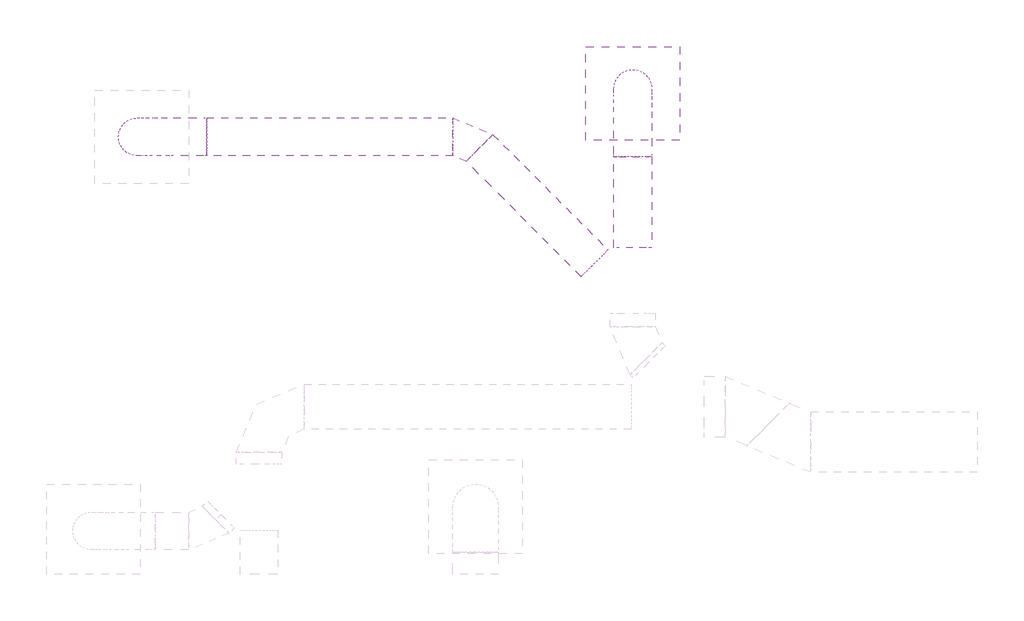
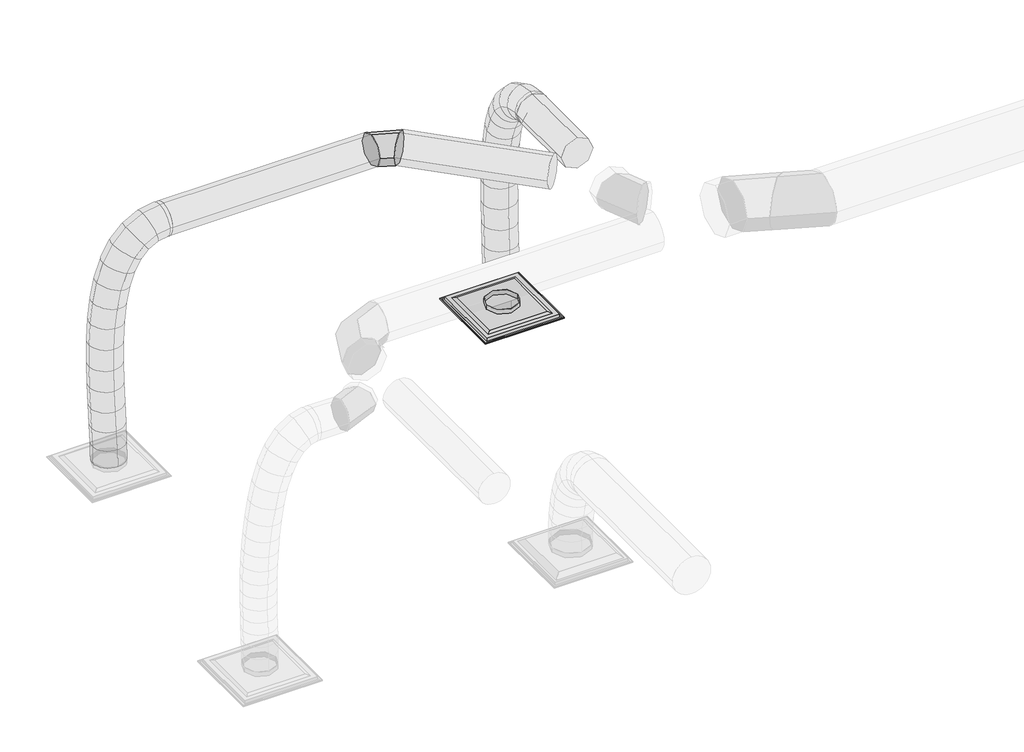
# One storey, part 32 of 33: 5 duct segments, 1 air terminal, 1 duct fitting.
"""IFC4 building model written with IfcOpenShell, lengths in millimetres."""

from ifc_helpers import new_model, si_unit, point, frame, frame_2d, origin, place, context, project, spatial, circle_curve, ellipse_curve, trimmed, segment, composite_curve, outline, extrude, transform, mapped, element, save
from ifc_brep_helpers import plane_surface, cylinder_surface, advanced_brep
from components import par_aa_10_24x24_32668ffe, round_elbow_1_d_ea3dccb8

model = new_model("IFC4")

# Units and contexts
model_context = context("Model", 3, world=origin())
ifc_project = project(units=[si_unit("LENGTHUNIT", "METRE", prefix="MILLI")], contexts=[model_context])

# Site, building, storey
site = spatial("IfcSite", under=ifc_project)
building = spatial("IfcBuilding", under=site)
storey = spatial("IfcBuildingStorey", under=building, Name="T.O. SLAB - 1ST", Elevation=-25.4)

# Air terminal
placement = place(None, origin())
par_aa_10_24x24_shape = par_aa_10_24x24_32668ffe(model_context)
element("IfcAirTerminal", 1, ObjectType="Titus-Round_Neck_Exhaust_Diffuser-PAR_Surface_Mount : PAR AA-10_24x24", at=placement, inside=storey, context=model_context, shape_type="MappedRepresentation", body=[
    mapped(par_aa_10_24x24_shape, transform((9087.7825715, 33500.1029955, 2717.8), x_axis=(1.0, 0.0, 0.0), y_axis=(0.0, -1.0, 0.0), z_axis=(0.0, 0.0, -1.0))),
])

# Duct fitting
round_elbow_1_d_shape = round_elbow_1_d_ea3dccb8(model_context)
element("IfcDuctFitting", 2, ObjectType="Round Elbow : 1 D", at=placement, inside=storey, context=model_context, shape_type="MappedRepresentation", body=[
    mapped(round_elbow_1_d_shape, transform((7983.9290577, 33207.8660138, 4648.2), x_axis=(-0.7071067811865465, 0.7071067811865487, 0.0), y_axis=(-0.7071067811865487, -0.7071067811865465, 0.0), z_axis=(0.0, 0.0, 1.0))),
])

# Duct segments
element("IfcDuctSegment", 3, ObjectType="Flex - Round", at=placement, inside=storey, context=model_context, shape_type="AdvancedBrep", body=[
    advanced_brep(
    [(8960.7825715, 33073.9418033, 4648.2), (9087.7825715, 33073.9418033, 4521.2), (9214.7825715, 33073.9418033, 4648.2), (9087.7825715, 33073.9418033, 4775.2), (8960.7825715, 33092.2978485, 4648.2), (9087.7825715, 33081.4861867, 4521.2), (9214.7825715, 33092.2978485, 4648.2), (9087.7825715, 33103.1095102, 4775.2), (8960.7825715, 33500.1029955, 2787.65), (9087.7825715, 33627.0786966, 2785.1657803), (9214.7825715, 33500.1029955, 2787.65), (9087.7825715, 33373.1272945, 2790.1342197), (8960.7825715, 33197.7108398, 4630.1211087), (9087.7825715, 33156.9552662, 4508.2566496), (9214.7825715, 33197.7108398, 4630.1211087), (9087.7825715, 33238.4664135, 4751.9855678), (8960.7825715, 33297.8818377, 4578.5263698), (9087.7825715, 33221.2813885, 4475.1244102), (9214.7825715, 33297.8818377, 4578.5263698), (9087.7825715, 33374.4822869, 4681.9283295), (8960.7825715, 33376.7647316, 4497.3786863), (9087.7825715, 33274.1352323, 4420.753091), (9214.7825715, 33376.7647316, 4497.3786863), (9087.7825715, 33479.3942308, 4574.0042815), (8960.7825715, 33436.669456, 4390.6409607), (9087.7825715, 33320.1053441, 4338.8439392), (9214.7825715, 33436.669456, 4390.6409607), (9087.7825715, 33553.2335679, 4442.4379822), (8960.7825715, 33479.9059456, 4262.2760959), (9087.7825715, 33356.9181589, 4229.5503301), (9214.7825715, 33479.9059456, 4262.2760959), (9087.7825715, 33602.8937324, 4295.0018616), (8960.7825715, 33508.7841351, 4116.2469945), (9087.7825715, 33383.0842509, 4097.2355633), (9214.7825715, 33508.7841351, 4116.2469945), (9087.7825715, 33634.4840193, 4135.2584258), (8960.7825715, 33525.6139589, 3956.5165595), (9087.7825715, 33398.8927251, 3947.1986718), (9214.7825715, 33525.6139589, 3956.5165595), (9087.7825715, 33652.3351928, 3965.8344471), (8960.7825715, 33532.7053518, 3787.0476934), (9087.7825715, 33405.7002426, 3784.5138088), (9214.7825715, 33532.7053518, 3787.0476934), (9087.7825715, 33659.710461, 3789.5815781), (8960.7825715, 33532.3682482, 3611.8032991), (9087.7825715, 33405.3720111, 3613.881582), (9214.7825715, 33532.3682482, 3611.8032991), (9087.7825715, 33659.3644854, 3609.7250162), (8960.7825715, 33526.9125829, 3434.7462793), (9087.7825715, 33400.0049259, 3439.6993256), (9214.7825715, 33526.9125829, 3434.7462793), (9087.7825715, 33653.8202398, 3429.793233), (8960.7825715, 33518.6482903, 3259.8395367), (9087.7825715, 33391.8037682, 3266.1287779), (9214.7825715, 33518.6482903, 3259.8395367), (9087.7825715, 33645.4928124, 3253.5502955), (8960.7825715, 33509.8853052, 3091.0459741), (9087.7825715, 33383.0294476, 3097.1168709), (9214.7825715, 33509.8853052, 3091.0459741), (9087.7825715, 33636.7411627, 3084.9750773), (8960.7825715, 33502.9335621, 2932.3284943), (9087.7825715, 33375.9879333, 2936.3497964), (9214.7825715, 33502.9335621, 2932.3284943), (9087.7825715, 33629.8791908, 2928.3071922)],
    [
        (0, 1, circle_curve(frame((9087.7825715, 33073.9418033, 4648.2), z_axis=(0.0, -1.0, 0.0), x_axis=(-1.0, 0.0, 0.0)), 127.0)),
        (1, 2, circle_curve(frame((9087.7825715, 33073.9418033, 4648.2), z_axis=(0.0, -1.0, 0.0), x_axis=(-1.0, 0.0, 0.0)), 127.0)),
        (2, 3, circle_curve(frame((9087.7825715, 33073.9418033, 4648.2), z_axis=(0.0, -1.0, 0.0), x_axis=(-1.0, 0.0, 0.0)), 127.0)),
        (3, 0, circle_curve(frame((9087.7825715, 33073.9418033, 4648.2), z_axis=(0.0, -1.0, 0.0), x_axis=(-1.0, 0.0, 0.0)), 127.0)),
        (0, 4),
        (4, 5, ellipse_curve(frame((9087.7825715, 33092.2978485, 4648.2), z_axis=(0.0, -0.9963959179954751, 0.08482437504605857), x_axis=(0.0, -0.08482437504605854, -0.9963959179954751)), 127.459374, 127.0)),
        (5, 1),
        (5, 6, ellipse_curve(frame((9087.7825715, 33092.2978485, 4648.2), z_axis=(0.0, -0.9963959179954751, 0.08482437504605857), x_axis=(0.0, -0.08482437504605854, -0.9963959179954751)), 127.459374, 127.0)),
        (6, 2),
        (6, 7, ellipse_curve(frame((9087.7825715, 33092.2978485, 4648.2), z_axis=(0.0, -0.9963959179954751, 0.08482437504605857), x_axis=(0.0, -0.08482437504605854, -0.9963959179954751)), 127.459374, 127.0)),
        (7, 3),
        (7, 4, ellipse_curve(frame((9087.7825715, 33092.2978485, 4648.2), z_axis=(0.0, -0.9963959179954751, 0.08482437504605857), x_axis=(0.0, -0.08482437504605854, -0.9963959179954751)), 127.459374, 127.0)),
        (8, 9, circle_curve(frame((9087.7825715, 33500.1029955, 2787.65), z_axis=(0.0, -0.019560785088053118, -0.999808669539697), x_axis=(-1.0, 0.0, 0.0)), 127.0)),
        (9, 10, circle_curve(frame((9087.7825715, 33500.1029955, 2787.65), z_axis=(0.0, -0.019560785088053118, -0.999808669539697), x_axis=(-1.0, 0.0, 0.0)), 127.0)),
        (10, 11, circle_curve(frame((9087.7825715, 33500.1029955, 2787.65), z_axis=(0.0, -0.019560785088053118, -0.999808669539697), x_axis=(-1.0, 0.0, 0.0)), 127.0)),
        (11, 8, circle_curve(frame((9087.7825715, 33500.1029955, 2787.65), z_axis=(0.0, -0.019560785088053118, -0.999808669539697), x_axis=(-1.0, 0.0, 0.0)), 127.0)),
        (4, 12),
        (12, 13, ellipse_curve(frame((9087.7825715, 33197.7108398, 4630.1211087), z_axis=(0.0, -0.9483697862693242, 0.3171667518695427), x_axis=(0.0, -0.31716675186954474, -0.9483697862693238)), 128.4988839, 127.0)),
        (13, 5),
        (13, 14, ellipse_curve(frame((9087.7825715, 33197.7108398, 4630.1211087), z_axis=(0.0, -0.9483697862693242, 0.3171667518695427), x_axis=(0.0, -0.31716675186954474, -0.9483697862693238)), 128.4988839, 127.0)),
        (14, 6),
        (14, 15, ellipse_curve(frame((9087.7825715, 33197.7108398, 4630.1211087), z_axis=(0.0, -0.9483697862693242, 0.3171667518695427), x_axis=(0.0, -0.31716675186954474, -0.9483697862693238)), 128.4988839, 127.0)),
        (15, 7),
        (15, 12, ellipse_curve(frame((9087.7825715, 33197.7108398, 4630.1211087), z_axis=(0.0, -0.9483697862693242, 0.3171667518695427), x_axis=(0.0, -0.31716675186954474, -0.9483697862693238)), 128.4988839, 127.0)),
        (12, 16),
        (16, 17, ellipse_curve(frame((9087.7825715, 33297.8818377, 4578.5263698), z_axis=(0.0, -0.8035333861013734, 0.595259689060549), x_axis=(0.0, -0.5952596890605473, -0.8035333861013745)), 128.6840863, 127.0)),
        (17, 13),
        (17, 18, ellipse_curve(frame((9087.7825715, 33297.8818377, 4578.5263698), z_axis=(0.0, -0.8035333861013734, 0.595259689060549), x_axis=(0.0, -0.5952596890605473, -0.8035333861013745)), 128.6840863, 127.0)),
        (18, 14),
        (18, 19, ellipse_curve(frame((9087.7825715, 33297.8818377, 4578.5263698), z_axis=(0.0, -0.8035333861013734, 0.595259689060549), x_axis=(0.0, -0.5952596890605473, -0.8035333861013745)), 128.6840863, 127.0)),
        (19, 15),
        (19, 16, ellipse_curve(frame((9087.7825715, 33297.8818377, 4578.5263698), z_axis=(0.0, -0.8035333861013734, 0.595259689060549), x_axis=(0.0, -0.5952596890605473, -0.8035333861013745)), 128.6840863, 127.0)),
        (16, 20),
        (20, 21, ellipse_curve(frame((9087.7825715, 33376.7647316, 4497.3786863), z_axis=(0.0, -0.5982670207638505, 0.8012968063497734), x_axis=(0.0, -0.8012968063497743, -0.5982670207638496)), 128.0792565, 127.0)),
        (21, 17),
        (21, 22, ellipse_curve(frame((9087.7825715, 33376.7647316, 4497.3786863), z_axis=(0.0, -0.5982670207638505, 0.8012968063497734), x_axis=(0.0, -0.8012968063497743, -0.5982670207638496)), 128.0792565, 127.0)),
        (22, 18),
        (22, 23, ellipse_curve(frame((9087.7825715, 33376.7647316, 4497.3786863), z_axis=(0.0, -0.5982670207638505, 0.8012968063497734), x_axis=(0.0, -0.8012968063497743, -0.5982670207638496)), 128.0792565, 127.0)),
        (23, 19),
        (23, 20, ellipse_curve(frame((9087.7825715, 33376.7647316, 4497.3786863), z_axis=(0.0, -0.5982670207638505, 0.8012968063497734), x_axis=(0.0, -0.8012968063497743, -0.5982670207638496)), 128.0792565, 127.0)),
        (20, 24),
        (24, 25, ellipse_curve(frame((9087.7825715, 33436.669456, 4390.6409607), z_axis=(0.0, -0.4060779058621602, 0.9138384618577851), x_axis=(0.0, -0.9138384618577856, -0.4060779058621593)), 127.5543948, 127.0)),
        (25, 21),
        (25, 26, ellipse_curve(frame((9087.7825715, 33436.669456, 4390.6409607), z_axis=(0.0, -0.4060779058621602, 0.9138384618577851), x_axis=(0.0, -0.9138384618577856, -0.4060779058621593)), 127.5543948, 127.0)),
        (26, 22),
        (26, 27, ellipse_curve(frame((9087.7825715, 33436.669456, 4390.6409607), z_axis=(0.0, -0.4060779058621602, 0.9138384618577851), x_axis=(0.0, -0.9138384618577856, -0.4060779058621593)), 127.5543948, 127.0)),
        (27, 23),
        (27, 24, ellipse_curve(frame((9087.7825715, 33436.669456, 4390.6409607), z_axis=(0.0, -0.4060779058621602, 0.9138384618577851), x_axis=(0.0, -0.9138384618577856, -0.4060779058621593)), 127.5543948, 127.0)),
        (24, 28),
        (28, 29, ellipse_curve(frame((9087.7825715, 33479.9059456, 4262.2760959), z_axis=(0.0, -0.25714193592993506, 0.9663736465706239), x_axis=(0.0, -0.9663736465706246, -0.25714193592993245)), 127.2673227, 127.0)),
        (29, 25),
        (29, 30, ellipse_curve(frame((9087.7825715, 33479.9059456, 4262.2760959), z_axis=(0.0, -0.25714193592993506, 0.9663736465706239), x_axis=(0.0, -0.9663736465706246, -0.25714193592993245)), 127.2673227, 127.0)),
        (30, 26),
        (30, 31, ellipse_curve(frame((9087.7825715, 33479.9059456, 4262.2760959), z_axis=(0.0, -0.25714193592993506, 0.9663736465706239), x_axis=(0.0, -0.9663736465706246, -0.25714193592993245)), 127.2673227, 127.0)),
        (31, 27),
        (31, 28, ellipse_curve(frame((9087.7825715, 33479.9059456, 4262.2760959), z_axis=(0.0, -0.25714193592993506, 0.9663736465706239), x_axis=(0.0, -0.9663736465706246, -0.25714193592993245)), 127.2673227, 127.0)),
        (28, 32),
        (32, 33, ellipse_curve(frame((9087.7825715, 33508.7841351, 4116.2469945), z_axis=(0.0, -0.14954388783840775, 0.988755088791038), x_axis=(0.0, -0.988755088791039, -0.14954388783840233)), 127.1294435, 127.0)),
        (33, 29),
        (33, 34, ellipse_curve(frame((9087.7825715, 33508.7841351, 4116.2469945), z_axis=(0.0, -0.14954388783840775, 0.988755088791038), x_axis=(0.0, -0.988755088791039, -0.14954388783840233)), 127.1294435, 127.0)),
        (34, 30),
        (34, 35, ellipse_curve(frame((9087.7825715, 33508.7841351, 4116.2469945), z_axis=(0.0, -0.14954388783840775, 0.988755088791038), x_axis=(0.0, -0.988755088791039, -0.14954388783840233)), 127.1294435, 127.0)),
        (35, 31),
        (35, 32, ellipse_curve(frame((9087.7825715, 33508.7841351, 4116.2469945), z_axis=(0.0, -0.14954388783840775, 0.988755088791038), x_axis=(0.0, -0.988755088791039, -0.14954388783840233)), 127.1294435, 127.0)),
        (32, 36),
        (36, 37, ellipse_curve(frame((9087.7825715, 33525.6139589, 3956.5165595), z_axis=(0.0, -0.07333261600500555, 0.9973075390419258), x_axis=(0.0, -0.9973075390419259, -0.07333261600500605)), 127.063347, 127.0)),
        (37, 33),
        (37, 38, ellipse_curve(frame((9087.7825715, 33525.6139589, 3956.5165595), z_axis=(0.0, -0.07333261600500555, 0.9973075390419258), x_axis=(0.0, -0.9973075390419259, -0.07333261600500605)), 127.063347, 127.0)),
        (38, 34),
        (38, 39, ellipse_curve(frame((9087.7825715, 33525.6139589, 3956.5165595), z_axis=(0.0, -0.07333261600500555, 0.9973075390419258), x_axis=(0.0, -0.9973075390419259, -0.07333261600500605)), 127.063347, 127.0)),
        (39, 35),
        (39, 36, ellipse_curve(frame((9087.7825715, 33525.6139589, 3956.5165595), z_axis=(0.0, -0.07333261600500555, 0.9973075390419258), x_axis=(0.0, -0.9973075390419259, -0.07333261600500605)), 127.063347, 127.0)),
        (36, 40),
        (40, 41, ellipse_curve(frame((9087.7825715, 33532.7053518, 3787.0476934), z_axis=(0.0, -0.019947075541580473, 0.9998010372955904), x_axis=(0.0, -0.99980103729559, -0.01994707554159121)), 127.0303835, 127.0)),
        (41, 37),
        (41, 42, ellipse_curve(frame((9087.7825715, 33532.7053518, 3787.0476934), z_axis=(0.0, -0.019947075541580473, 0.9998010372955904), x_axis=(0.0, -0.99980103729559, -0.01994707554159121)), 127.0303835, 127.0)),
        (42, 38),
        (42, 43, ellipse_curve(frame((9087.7825715, 33532.7053518, 3787.0476934), z_axis=(0.0, -0.019947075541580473, 0.9998010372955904), x_axis=(0.0, -0.99980103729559, -0.01994707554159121)), 127.0303835, 127.0)),
        (43, 39),
        (43, 40, ellipse_curve(frame((9087.7825715, 33532.7053518, 3787.0476934), z_axis=(0.0, -0.019947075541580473, 0.9998010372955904), x_axis=(0.0, -0.99980103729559, -0.01994707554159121)), 127.0303835, 127.0)),
        (40, 44),
        (44, 45, ellipse_curve(frame((9087.7825715, 33532.3682482, 3611.8032991), z_axis=(0.0, 0.016362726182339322, 0.9998661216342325), x_axis=(0.0, -0.9998661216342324, 0.016362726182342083)), 127.0132415, 127.0)),
        (45, 41),
        (45, 46, ellipse_curve(frame((9087.7825715, 33532.3682482, 3611.8032991), z_axis=(0.0, 0.016362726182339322, 0.9998661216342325), x_axis=(0.0, -0.9998661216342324, 0.016362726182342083)), 127.0132415, 127.0)),
        (46, 42),
        (46, 47, ellipse_curve(frame((9087.7825715, 33532.3682482, 3611.8032991), z_axis=(0.0, 0.016362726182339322, 0.9998661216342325), x_axis=(0.0, -0.9998661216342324, 0.016362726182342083)), 127.0132415, 127.0)),
        (47, 43),
        (47, 44, ellipse_curve(frame((9087.7825715, 33532.3682482, 3611.8032991), z_axis=(0.0, 0.016362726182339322, 0.9998661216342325), x_axis=(0.0, -0.9998661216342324, 0.016362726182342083)), 127.0132415, 127.0)),
        (44, 48),
        (48, 49, ellipse_curve(frame((9087.7825715, 33526.9125829, 3434.7462793), z_axis=(0.0, 0.038999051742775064, 0.9992392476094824), x_axis=(1.1088026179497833e-12, -0.999239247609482, 0.038999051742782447)), 127.0042757, 127.0)),
        (49, 45),
        (49, 50, ellipse_curve(frame((9087.7825715, 33526.9125829, 3434.7462793), z_axis=(0.0, 0.038999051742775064, 0.9992392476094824), x_axis=(1.1088026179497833e-12, -0.999239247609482, 0.038999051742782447)), 127.0042757, 127.0)),
        (50, 46),
        (50, 51, ellipse_curve(frame((9087.7825715, 33526.9125829, 3434.7462793), z_axis=(0.0, 0.038999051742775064, 0.9992392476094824), x_axis=(1.1088026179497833e-12, -0.999239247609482, 0.038999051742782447)), 127.0042757, 127.0)),
        (51, 47),
        (51, 48, ellipse_curve(frame((9087.7825715, 33526.9125829, 3434.7462793), z_axis=(0.0, 0.038999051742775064, 0.9992392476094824), x_axis=(1.1088026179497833e-12, -0.999239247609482, 0.038999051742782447)), 127.0042757, 127.0)),
        (48, 52),
        (52, 53, ellipse_curve(frame((9087.7825715, 33518.6482903, 3259.8395367), z_axis=(0.0, 0.04952144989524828, 0.9987730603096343), x_axis=(-1.4721417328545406e-12, -0.9987730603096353, 0.049521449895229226)), 127.0003439, 127.0)),
        (53, 49),
        (53, 54, ellipse_curve(frame((9087.7825715, 33518.6482903, 3259.8395367), z_axis=(0.0, 0.04952144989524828, 0.9987730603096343), x_axis=(-1.4721417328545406e-12, -0.9987730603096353, 0.049521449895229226)), 127.0003439, 127.0)),
        (54, 50),
        (54, 55, ellipse_curve(frame((9087.7825715, 33518.6482903, 3259.8395367), z_axis=(0.0, 0.04952144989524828, 0.9987730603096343), x_axis=(-1.4721417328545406e-12, -0.9987730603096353, 0.049521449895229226)), 127.0003439, 127.0)),
        (55, 51),
        (55, 52, ellipse_curve(frame((9087.7825715, 33518.6482903, 3259.8395367), z_axis=(0.0, 0.04952144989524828, 0.9987730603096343), x_axis=(-1.4721417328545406e-12, -0.9987730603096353, 0.049521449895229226)), 127.0003439, 127.0)),
        (52, 56),
        (56, 57, ellipse_curve(frame((9087.7825715, 33509.8853052, 3091.0459741), z_axis=(0.0, 0.047801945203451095, 0.9988568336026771), x_axis=(0.0, 0.9988568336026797, -0.047801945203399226)), 127.0010409, 127.0)),
        (57, 53),
        (57, 58, ellipse_curve(frame((9087.7825715, 33509.8853052, 3091.0459741), z_axis=(0.0, 0.047801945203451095, 0.9988568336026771), x_axis=(0.0, 0.9988568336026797, -0.047801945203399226)), 127.0010409, 127.0)),
        (58, 54),
        (58, 59, ellipse_curve(frame((9087.7825715, 33509.8853052, 3091.0459741), z_axis=(0.0, 0.047801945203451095, 0.9988568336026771), x_axis=(0.0, 0.9988568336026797, -0.047801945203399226)), 127.0010409, 127.0)),
        (59, 55),
        (59, 56, ellipse_curve(frame((9087.7825715, 33509.8853052, 3091.0459741), z_axis=(0.0, 0.047801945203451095, 0.9988568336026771), x_axis=(0.0, 0.9988568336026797, -0.047801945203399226)), 127.0010409, 127.0)),
        (56, 60),
        (60, 61, ellipse_curve(frame((9087.7825715, 33502.9335621, 2932.3284943), z_axis=(0.0, 0.03166147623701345, 0.9994986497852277), x_axis=(0.0, 0.999498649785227, -0.031661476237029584)), 127.0093049, 127.0)),
        (61, 57),
        (61, 62, ellipse_curve(frame((9087.7825715, 33502.9335621, 2932.3284943), z_axis=(0.0, 0.03166147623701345, 0.9994986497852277), x_axis=(0.0, 0.999498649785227, -0.031661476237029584)), 127.0093049, 127.0)),
        (62, 58),
        (62, 63, ellipse_curve(frame((9087.7825715, 33502.9335621, 2932.3284943), z_axis=(0.0, 0.03166147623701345, 0.9994986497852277), x_axis=(0.0, 0.999498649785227, -0.031661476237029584)), 127.0093049, 127.0)),
        (63, 59),
        (63, 60, ellipse_curve(frame((9087.7825715, 33502.9335621, 2932.3284943), z_axis=(0.0, 0.03166147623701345, 0.9994986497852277), x_axis=(0.0, 0.999498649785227, -0.031661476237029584)), 127.0093049, 127.0)),
        (60, 8),
        (11, 61),
        (10, 62),
        (9, 63),
    ],
    [
        plane_surface(frame((8960.7825715, 33073.9418033, 4648.2), z_axis=(0.0, -1.0, 0.0), x_axis=(0.0, 0.0, 1.0))),
        cylinder_surface(frame((9087.7825715, 33073.9418033, 4648.2), z_axis=(0.0, -1.0, 0.0), x_axis=(-1.0, 0.0, 0.0)), 127.0),
        plane_surface(frame((9087.7825715, 33627.0786966, 2785.1657803), z_axis=(0.0, -0.019560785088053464, -0.999808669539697), x_axis=(1.0, 0.0, 0.0))),
        cylinder_surface(frame((9087.7825715, 33092.2978485, 4648.2), z_axis=(0.0, -0.9856096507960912, 0.16903732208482), x_axis=(-1.0, 0.0, 0.0)), 127.0),
        cylinder_surface(frame((9087.7825715, 33197.7108398, 4630.1211087), z_axis=(0.0, -0.889005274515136, 0.45789695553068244), x_axis=(-1.0, 0.0, 0.0)), 127.0),
        cylinder_surface(frame((9087.7825715, 33297.8818377, 4578.5263698), z_axis=(0.0, -0.6970298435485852, 0.7170421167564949), x_axis=(-1.0, 0.0, 0.0)), 127.0),
        cylinder_surface(frame((9087.7825715, 33376.7647316, 4497.3786863), z_axis=(0.0, -0.48942163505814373, 0.8720472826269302), x_axis=(-1.0, 0.0, 0.0)), 127.0),
        cylinder_surface(frame((9087.7825715, 33436.669456, 4390.6409607), z_axis=(0.0, -0.3192042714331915, 0.9476859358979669), x_axis=(-1.0, 0.0, 0.0)), 127.0),
        cylinder_surface(frame((9087.7825715, 33479.9059456, 4262.2760959), z_axis=(0.0, -0.19399935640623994, 0.9810016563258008), x_axis=(-1.0, 0.0, 0.0)), 127.0),
        cylinder_surface(frame((9087.7825715, 33508.7841351, 4116.2469945), z_axis=(0.0, -0.1047838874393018, 0.994495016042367), x_axis=(-1.0, 0.0, 0.0)), 127.0),
        cylinder_surface(frame((9087.7825715, 33525.6139589, 3956.5165595), z_axis=(0.0, -0.041808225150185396, 0.9991256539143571), x_axis=(-1.0, 0.0, 0.0)), 127.0),
        cylinder_surface(frame((9087.7825715, 33532.7053518, 3787.0476934), z_axis=(0.0, 0.0019236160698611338, 0.9999981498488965), x_axis=(-1.0, 0.0, 0.0)), 127.0),
        cylinder_surface(frame((9087.7825715, 33532.3682482, 3611.8032991), z_axis=(0.0, 0.0307984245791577, 0.9995256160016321), x_axis=(-1.0, 0.0, 0.0)), 127.0),
        cylinder_surface(frame((9087.7825715, 33526.9125829, 3434.7462793), z_axis=(0.0, 0.04719705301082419, 0.9988855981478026), x_axis=(-1.0, 0.0, 0.0)), 127.0),
        cylinder_surface(frame((9087.7825715, 33518.6482903, 3259.8395367), z_axis=(0.0, 0.05184557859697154, 0.998655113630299), x_axis=(-1.0, 0.0, 0.0)), 127.0),
        cylinder_surface(frame((9087.7825715, 33509.8853052, 3091.0459741), z_axis=(0.0, 0.04375752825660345, 0.9990421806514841), x_axis=(-1.0, 0.0, 0.0)), 127.0),
        cylinder_surface(frame((9087.7825715, 33502.9335621, 2932.3284943), z_axis=(0.0, 0.019560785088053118, 0.999808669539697), x_axis=(-1.0, 0.0, 0.0)), 127.0),
    ],
    [
        (0, [[1, 2, 3, 4]]),
        (1, [[-1, 5, 6, 7]]),
        (1, [[-2, -7, 8, 9]]),
        (1, [[-3, -9, 10, 11]]),
        (1, [[-4, -11, 12, -5]]),
        (2, [[13, 14, 15, 16]]),
        (3, [[-6, 17, 18, 19]]),
        (3, [[-8, -19, 20, 21]]),
        (3, [[-10, -21, 22, 23]]),
        (3, [[-12, -23, 24, -17]]),
        (4, [[-18, 25, 26, 27]]),
        (4, [[-20, -27, 28, 29]]),
        (4, [[-22, -29, 30, 31]]),
        (4, [[-24, -31, 32, -25]]),
        (5, [[-26, 33, 34, 35]]),
        (5, [[-28, -35, 36, 37]]),
        (5, [[-30, -37, 38, 39]]),
        (5, [[-32, -39, 40, -33]]),
        (6, [[-34, 41, 42, 43]]),
        (6, [[-36, -43, 44, 45]]),
        (6, [[-38, -45, 46, 47]]),
        (6, [[-40, -47, 48, -41]]),
        (7, [[-42, 49, 50, 51]]),
        (7, [[-44, -51, 52, 53]]),
        (7, [[-46, -53, 54, 55]]),
        (7, [[-48, -55, 56, -49]]),
        (8, [[-50, 57, 58, 59]]),
        (8, [[-52, -59, 60, 61]]),
        (8, [[-54, -61, 62, 63]]),
        (8, [[-56, -63, 64, -57]]),
        (9, [[-58, 65, 66, 67]]),
        (9, [[-60, -67, 68, 69]]),
        (9, [[-62, -69, 70, 71]]),
        (9, [[-64, -71, 72, -65]]),
        (10, [[-66, 73, 74, 75]]),
        (10, [[-68, -75, 76, 77]]),
        (10, [[-70, -77, 78, 79]]),
        (10, [[-72, -79, 80, -73]]),
        (11, [[-74, 81, 82, 83]]),
        (11, [[-76, -83, 84, 85]]),
        (11, [[-78, -85, 86, 87]]),
        (11, [[-80, -87, 88, -81]]),
        (12, [[-82, 89, 90, 91]]),
        (12, [[-84, -91, 92, 93]]),
        (12, [[-86, -93, 94, 95]]),
        (12, [[-88, -95, 96, -89]]),
        (13, [[-90, 97, 98, 99]]),
        (13, [[-92, -99, 100, 101]]),
        (13, [[-94, -101, 102, 103]]),
        (13, [[-96, -103, 104, -97]]),
        (14, [[-98, 105, 106, 107]]),
        (14, [[-100, -107, 108, 109]]),
        (14, [[-102, -109, 110, 111]]),
        (14, [[-104, -111, 112, -105]]),
        (15, [[-106, 113, 114, 115]]),
        (15, [[-108, -115, 116, 117]]),
        (15, [[-110, -117, 118, 119]]),
        (15, [[-112, -119, 120, -113]]),
        (16, [[-114, 121, -16, 122]]),
        (16, [[-116, -122, -15, 123]]),
        (16, [[-118, -123, -14, 124]]),
        (16, [[-120, -124, -13, -121]]),
    ],
),
])
element("IfcDuctSegment", 4, ObjectType="Flex - Round", at=placement, inside=storey, context=model_context, shape_type="AdvancedBrep", body=[
    advanced_brep(
    [(6226.6748275, 33080.8660138, 4648.2), (6226.6748275, 33207.8660138, 4521.2), (6226.6748275, 33334.8660138, 4648.2), (6226.6748275, 33207.8660138, 4775.2), (6208.3716754, 33080.8660138, 4648.2), (6219.1423322, 33207.8660138, 4521.2), (6208.3716491, 33334.8660138, 4648.2), (6197.6009924, 33207.8660138, 4775.2), (5790.3210319, 33080.8645024, 2787.650022), (5663.3428375, 33207.8643573, 2785.2888821), (5790.3207426, 33334.8645024, 2787.649978), (5917.298937, 33207.8646474, 2790.0111179), (6102.6155072, 33080.8659918, 4630.1320186), (6143.18542, 33207.865998, 4508.2230919), (6102.6154096, 33334.8659918, 4630.1320064), (6062.0454968, 33207.8659855, 4752.0409331), (6001.9287078, 33080.8659301, 4578.5666575), (6078.1514641, 33207.8659581, 4474.9168448), (6001.9285276, 33334.8659301, 4578.566603), (5925.7057713, 33207.865902, 4682.2164157), (5922.3440316, 33080.8658353, 4497.4617798), (6024.5432678, 33207.8658943, 4420.2846416), (5922.3437942, 33334.8658353, 4497.461667), (5820.144558, 33207.8657763, 4574.6388052), (5861.5910846, 33080.8657141, 4390.7752437), (5977.8121185, 33207.8658011, 4338.2213887), (5861.5908185, 33334.8657141, 4390.7750805), (5745.3697846, 33207.8656272, 4443.3289355), (5817.3994802, 33080.8655731, 4262.4649154), (5940.1617673, 33207.865681, 4228.9035901), (5817.3992022, 33334.8655731, 4262.4647178), (5694.636915, 33207.8654653, 4296.0260431), (5787.4988304, 33080.8654189, 4116.4886658), (5913.0698305, 33207.8655412, 4096.6395971), (5787.4985483, 33334.8654189, 4116.4884483), (5661.9275482, 33207.8652966, 4136.337517), (5769.6187451, 33080.8652581, 3956.8043667), (5896.2791506, 33207.8653902, 3946.68461), (5769.6184621, 33334.8652581, 3956.8041408), (5642.9580567, 33207.865126, 3966.9238975), (5761.488833, 33080.8650972, 3787.3698893), (5888.4773938, 33207.8652358, 3784.0891788), (5761.48855, 33334.8650972, 3787.3696643), (5634.4999891, 33207.8649587, 3790.6503748), (5760.838702, 33080.864943, 3612.1431044), (5887.8446262, 33207.8650857, 3613.5422608), (5760.838419, 33334.864943, 3612.1428884), (5633.8324948, 33207.8648003, 3610.743732), (5765.3979599, 33080.864802, 3435.0818822), (5892.327797, 33207.8649471, 3439.4359255), (5765.3976766, 33334.864802, 3435.0816834), (5638.4678395, 33207.8646569, 3430.7276401), (5772.8962145, 33080.8646808, 3260.1440923), (5899.7646377, 33207.8648269, 3265.9309506), (5772.89593, 33334.8646808, 3260.14392), (5646.0275069, 33207.8645348, 3254.3570617), (5781.0630733, 33080.8645861, 3091.2876034), (5907.9361659, 33207.8647321, 3096.9779166), (5781.0627869, 33334.8645861, 3091.28747), (5654.1896943, 33207.8644401, 3085.5971568), (5787.6281436, 33080.8645244, 2932.4702832), (5914.5792241, 33207.8646697, 2936.2739696), (5787.6278549, 33334.8645244, 2932.4702059), (5660.6767743, 33207.8643791, 2928.6665195)],
    [
        (0, 1, circle_curve(frame((6226.6748275, 33207.8660138, 4648.2), z_axis=(1.0, 0.0, 0.0), x_axis=(0.0, -1.0, 0.0)), 127.0)),
        (1, 2, circle_curve(frame((6226.6748275, 33207.8660138, 4648.2), z_axis=(1.0, 0.0, 0.0), x_axis=(0.0, -1.0, 0.0)), 127.0)),
        (2, 3, circle_curve(frame((6226.6748275, 33207.8660138, 4648.2), z_axis=(1.0, 0.0, 0.0), x_axis=(0.0, -1.0, 0.0)), 127.0)),
        (3, 0, circle_curve(frame((6226.6748275, 33207.8660138, 4648.2), z_axis=(1.0, 0.0, 0.0), x_axis=(0.0, -1.0, 0.0)), 127.0)),
        (0, 4),
        (4, 5, ellipse_curve(frame((6208.3716623, 33207.8660138, 4648.2), z_axis=(0.9964230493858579, 1.0304583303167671e-07, 0.08450506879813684), x_axis=(0.08450506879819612, -1.2150424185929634e-06, -0.9964230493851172)), 127.4559035, 127.0)),
        (5, 1),
        (5, 6, ellipse_curve(frame((6208.3716623, 33207.8660138, 4648.2), z_axis=(0.9964230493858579, 1.0304583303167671e-07, 0.08450506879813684), x_axis=(0.08450506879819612, -1.2150424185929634e-06, -0.9964230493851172)), 127.4559035, 127.0)),
        (6, 2),
        (6, 7, ellipse_curve(frame((6208.3716623, 33207.8660138, 4648.2), z_axis=(0.9964230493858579, 1.0304583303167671e-07, 0.08450506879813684), x_axis=(0.08450506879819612, -1.2150424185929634e-06, -0.9964230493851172)), 127.4559035, 127.0)),
        (7, 3),
        (7, 4, ellipse_curve(frame((6208.3716623, 33207.8660138, 4648.2), z_axis=(0.9964230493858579, 1.0304583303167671e-07, 0.08450506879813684), x_axis=(0.08450506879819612, -1.2150424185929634e-06, -0.9964230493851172)), 127.4559035, 127.0)),
        (8, 9, circle_curve(frame((5790.3208873, 33207.8645024, 2787.65), z_axis=(0.01859147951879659, -1.5210839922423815e-07, -0.9998271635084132), x_axis=(1.139109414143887e-06, -0.9999999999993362, 1.7331608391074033e-07)), 127.0)),
        (9, 10, circle_curve(frame((5790.3208873, 33207.8645024, 2787.65), z_axis=(0.01859147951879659, -1.5210839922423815e-07, -0.9998271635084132), x_axis=(1.139109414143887e-06, -0.9999999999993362, 1.7331608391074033e-07)), 127.0)),
        (10, 11, circle_curve(frame((5790.3208873, 33207.8645024, 2787.65), z_axis=(0.01859147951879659, -1.5210839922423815e-07, -0.9998271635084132), x_axis=(1.139109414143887e-06, -0.9999999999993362, 1.7331608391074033e-07)), 127.0)),
        (11, 8, circle_curve(frame((5790.3208873, 33207.8645024, 2787.65), z_axis=(0.01859147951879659, -1.5210839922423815e-07, -0.9998271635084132), x_axis=(1.139109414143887e-06, -0.9999999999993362, 1.7331608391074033e-07)), 127.0)),
        (4, 12),
        (12, 13, ellipse_curve(frame((6102.6154584, 33207.8659918, 4630.1320125), z_axis=(0.9488380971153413, 3.797263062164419e-07, 0.31576298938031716), x_axis=(0.31576298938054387, -1.1223218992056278e-06, -0.9488380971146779)), 128.4823206, 127.0)),
        (13, 5),
        (13, 14, ellipse_curve(frame((6102.6154584, 33207.8659918, 4630.1320125), z_axis=(0.9488380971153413, 3.797263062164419e-07, 0.31576298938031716), x_axis=(0.31576298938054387, -1.1223218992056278e-06, -0.9488380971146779)), 128.4823206, 127.0)),
        (14, 6),
        (14, 15, ellipse_curve(frame((6102.6154584, 33207.8659918, 4630.1320125), z_axis=(0.9488380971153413, 3.797263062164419e-07, 0.31576298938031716), x_axis=(0.31576298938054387, -1.1223218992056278e-06, -0.9488380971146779)), 128.4823206, 127.0)),
        (15, 7),
        (15, 12, ellipse_curve(frame((6102.6154584, 33207.8659918, 4630.1320125), z_axis=(0.9488380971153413, 3.797263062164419e-07, 0.31576298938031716), x_axis=(0.31576298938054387, -1.1223218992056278e-06, -0.9488380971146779)), 128.4823206, 127.0)),
        (12, 16),
        (16, 17, ellipse_curve(frame((6001.9286177, 33207.8659301, 4578.5666303), z_axis=(0.8056147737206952, 6.98549843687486e-07, 0.5924397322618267), x_axis=(0.5924397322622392, -9.008145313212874e-07, -0.8056147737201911)), 128.6592412, 127.0)),
        (17, 13),
        (17, 18, ellipse_curve(frame((6001.9286177, 33207.8659301, 4578.5666303), z_axis=(0.8056147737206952, 6.98549843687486e-07, 0.5924397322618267), x_axis=(0.5924397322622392, -9.008145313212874e-07, -0.8056147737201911)), 128.6592412, 127.0)),
        (18, 14),
        (18, 19, ellipse_curve(frame((6001.9286177, 33207.8659301, 4578.5666303), z_axis=(0.8056147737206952, 6.98549843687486e-07, 0.5924397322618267), x_axis=(0.5924397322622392, -9.008145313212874e-07, -0.8056147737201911)), 128.6592412, 127.0)),
        (19, 15),
        (19, 16, ellipse_curve(frame((6001.9286177, 33207.8659301, 4578.5666303), z_axis=(0.8056147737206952, 6.98549843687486e-07, 0.5924397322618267), x_axis=(0.5924397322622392, -9.008145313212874e-07, -0.8056147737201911)), 128.6592412, 127.0)),
        (16, 20),
        (20, 21, ellipse_curve(frame((5922.3439129, 33207.8658353, 4497.4617234), z_axis=(0.6026332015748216, 9.180219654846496e-07, 0.7980183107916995), x_axis=(0.7980183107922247, -5.950456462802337e-07, -0.6026332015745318)), 128.0664285, 127.0)),
        (21, 17),
        (21, 22, ellipse_curve(frame((5922.3439129, 33207.8658353, 4497.4617234), z_axis=(0.6026332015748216, 9.180219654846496e-07, 0.7980183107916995), x_axis=(0.7980183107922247, -5.950456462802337e-07, -0.6026332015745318)), 128.0664285, 127.0)),
        (22, 18),
        (22, 23, ellipse_curve(frame((5922.3439129, 33207.8658353, 4497.4617234), z_axis=(0.6026332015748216, 9.180219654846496e-07, 0.7980183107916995), x_axis=(0.7980183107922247, -5.950456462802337e-07, -0.6026332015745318)), 128.0664285, 127.0)),
        (23, 19),
        (23, 20, ellipse_curve(frame((5922.3439129, 33207.8658353, 4497.4617234), z_axis=(0.6026332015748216, 9.180219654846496e-07, 0.7980183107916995), x_axis=(0.7980183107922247, -5.950456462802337e-07, -0.6026332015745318)), 128.0664285, 127.0)),
        (20, 24),
        (24, 25, ellipse_curve(frame((5861.5909516, 33207.8657141, 4390.7751621), z_axis=(0.4120216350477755, 1.0174224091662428e-06, 0.9111740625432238), x_axis=(0.9111740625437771, -2.802189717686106e-07, -0.41202163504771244)), 127.5510045, 127.0)),
        (25, 21),
        (25, 26, ellipse_curve(frame((5861.5909516, 33207.8657141, 4390.7751621), z_axis=(0.4120216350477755, 1.0174224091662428e-06, 0.9111740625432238), x_axis=(0.9111740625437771, -2.802189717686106e-07, -0.41202163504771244)), 127.5510045, 127.0)),
        (26, 22),
        (26, 27, ellipse_curve(frame((5861.5909516, 33207.8657141, 4390.7751621), z_axis=(0.4120216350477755, 1.0174224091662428e-06, 0.9111740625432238), x_axis=(0.9111740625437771, -2.802189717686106e-07, -0.41202163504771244)), 127.5510045, 127.0)),
        (27, 23),
        (27, 24, ellipse_curve(frame((5861.5909516, 33207.8657141, 4390.7751621), z_axis=(0.4120216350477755, 1.0174224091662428e-06, 0.9111740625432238), x_axis=(0.9111740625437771, -2.802189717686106e-07, -0.41202163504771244)), 127.5510045, 127.0)),
        (24, 28),
        (28, 29, ellipse_curve(frame((5817.3993412, 33207.8655731, 4262.4648166), z_axis=(0.2637065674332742, 1.03921530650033e-06, 0.9646029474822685), x_axis=(0.9646029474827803, 3.107496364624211e-08, -0.26370656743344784)), 127.2673139, 127.0)),
        (29, 25),
        (29, 30, ellipse_curve(frame((5817.3993412, 33207.8655731, 4262.4648166), z_axis=(0.2637065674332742, 1.03921530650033e-06, 0.9646029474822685), x_axis=(0.9646029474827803, 3.107496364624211e-08, -0.26370656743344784)), 127.2673139, 127.0)),
        (30, 26),
        (30, 31, ellipse_curve(frame((5817.3993412, 33207.8655731, 4262.4648166), z_axis=(0.2637065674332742, 1.03921530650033e-06, 0.9646029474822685), x_axis=(0.9646029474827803, 3.107496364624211e-08, -0.26370656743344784)), 127.2673139, 127.0)),
        (31, 27),
        (31, 28, ellipse_curve(frame((5817.3993412, 33207.8655731, 4262.4648166), z_axis=(0.2637065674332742, 1.03921530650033e-06, 0.9646029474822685), x_axis=(0.9646029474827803, 3.107496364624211e-08, -0.26370656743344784)), 127.2673139, 127.0)),
        (28, 32),
        (32, 33, ellipse_curve(frame((5787.4986894, 33207.8654189, 4116.4885571), z_axis=(0.15613093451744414, 1.0190287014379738e-06, 0.987736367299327), x_axis=(0.9877363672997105, 3.76456068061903e-07, -0.15613093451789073)), 127.1302195, 127.0)),
        (33, 29),
        (33, 34, ellipse_curve(frame((5787.4986894, 33207.8654189, 4116.4885571), z_axis=(0.15613093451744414, 1.0190287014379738e-06, 0.987736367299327), x_axis=(0.9877363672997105, 3.76456068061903e-07, -0.15613093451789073)), 127.1302195, 127.0)),
        (34, 30),
        (34, 35, ellipse_curve(frame((5787.4986894, 33207.8654189, 4116.4885571), z_axis=(0.15613093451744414, 1.0190287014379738e-06, 0.987736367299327), x_axis=(0.9877363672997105, 3.76456068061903e-07, -0.15613093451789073)), 127.1302195, 127.0)),
        (35, 31),
        (35, 32, ellipse_curve(frame((5787.4986894, 33207.8654189, 4116.4885571), z_axis=(0.15613093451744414, 1.0190287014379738e-06, 0.987736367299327), x_axis=(0.9877363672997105, 3.76456068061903e-07, -0.15613093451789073)), 127.1302195, 127.0)),
        (32, 36),
        (36, 37, ellipse_curve(frame((5769.6186036, 33207.8652581, 3956.8042537), z_axis=(0.07964199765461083, 9.750448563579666e-07, 0.9968235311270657), x_axis=(0.9968235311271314, 8.307676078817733e-07, -0.07964199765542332)), 127.0641623, 127.0)),
        (37, 33),
        (37, 38, ellipse_curve(frame((5769.6186036, 33207.8652581, 3956.8042537), z_axis=(0.07964199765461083, 9.750448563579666e-07, 0.9968235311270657), x_axis=(0.9968235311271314, 8.307676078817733e-07, -0.07964199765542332)), 127.0641623, 127.0)),
        (38, 34),
        (38, 39, ellipse_curve(frame((5769.6186036, 33207.8652581, 3956.8042537), z_axis=(0.07964199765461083, 9.750448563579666e-07, 0.9968235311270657), x_axis=(0.9968235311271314, 8.307676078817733e-07, -0.07964199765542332)), 127.0641623, 127.0)),
        (39, 35),
        (39, 36, ellipse_curve(frame((5769.6186036, 33207.8652581, 3956.8042537), z_axis=(0.07964199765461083, 9.750448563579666e-07, 0.9968235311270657), x_axis=(0.9968235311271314, 8.307676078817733e-07, -0.07964199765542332)), 127.0641623, 127.0)),
        (36, 40),
        (40, 41, ellipse_curve(frame((5761.4886915, 33207.8650972, 3787.3697768), z_axis=(0.02582516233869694, 9.143712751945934e-07, 0.9996664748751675), x_axis=(0.9996664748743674, 1.5376654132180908e-06, -0.025825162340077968)), 127.0310704, 127.0)),
        (41, 37),
        (41, 42, ellipse_curve(frame((5761.4886915, 33207.8650972, 3787.3697768), z_axis=(0.02582516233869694, 9.143712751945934e-07, 0.9996664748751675), x_axis=(0.9996664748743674, 1.5376654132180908e-06, -0.025825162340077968)), 127.0310704, 127.0)),
        (42, 38),
        (42, 43, ellipse_curve(frame((5761.4886915, 33207.8650972, 3787.3697768), z_axis=(0.02582516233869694, 9.143712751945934e-07, 0.9996664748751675), x_axis=(0.9996664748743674, 1.5376654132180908e-06, -0.025825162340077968)), 127.0310704, 127.0)),
        (43, 39),
        (43, 40, ellipse_curve(frame((5761.4886915, 33207.8650972, 3787.3697768), z_axis=(0.02582516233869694, 9.143712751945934e-07, 0.9996664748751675), x_axis=(0.9996664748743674, 1.5376654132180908e-06, -0.025825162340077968)), 127.0310704, 127.0)),
        (40, 44),
        (44, 45, ellipse_curve(frame((5760.8385605, 33207.864943, 3612.1429964), z_axis=(-0.011016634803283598, 8.382134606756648e-07, 0.9999393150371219), x_axis=(0.9999393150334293, 2.853218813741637e-06, 0.01101663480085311)), 127.0137735, 127.0)),
        (45, 41),
        (45, 46, ellipse_curve(frame((5760.8385605, 33207.864943, 3612.1429964), z_axis=(-0.011016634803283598, 8.382134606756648e-07, 0.9999393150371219), x_axis=(0.9999393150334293, 2.853218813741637e-06, 0.01101663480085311)), 127.0137735, 127.0)),
        (46, 42),
        (46, 47, ellipse_curve(frame((5760.8385605, 33207.864943, 3612.1429964), z_axis=(-0.011016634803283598, 8.382134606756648e-07, 0.9999393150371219), x_axis=(0.9999393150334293, 2.853218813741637e-06, 0.01101663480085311)), 127.0137735, 127.0)),
        (47, 43),
        (47, 44, ellipse_curve(frame((5760.8385605, 33207.864943, 3612.1429964), z_axis=(-0.011016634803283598, 8.382134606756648e-07, 0.9999393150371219), x_axis=(0.9999393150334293, 2.853218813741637e-06, 0.01101663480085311)), 127.0137735, 127.0)),
        (44, 48),
        (48, 49, ellipse_curve(frame((5765.3978183, 33207.864802, 3435.0817828), z_axis=(-0.03428333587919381, 7.441048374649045e-07, 0.9994121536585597), x_axis=(0.9994121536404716, 6.087843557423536e-06, 0.03428333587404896)), 127.0046379, 127.0)),
        (49, 45),
        (49, 50, ellipse_curve(frame((5765.3978183, 33207.864802, 3435.0817828), z_axis=(-0.03428333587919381, 7.441048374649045e-07, 0.9994121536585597), x_axis=(0.9994121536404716, 6.087843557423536e-06, 0.03428333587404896)), 127.0046379, 127.0)),
        (50, 46),
        (50, 51, ellipse_curve(frame((5765.3978183, 33207.864802, 3435.0817828), z_axis=(-0.03428333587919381, 7.441048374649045e-07, 0.9994121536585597), x_axis=(0.9994121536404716, 6.087843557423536e-06, 0.03428333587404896)), 127.0046379, 127.0)),
        (51, 47),
        (51, 48, ellipse_curve(frame((5765.3978183, 33207.864802, 3435.0817828), z_axis=(-0.03428333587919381, 7.441048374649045e-07, 0.9994121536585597), x_axis=(0.9994121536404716, 6.087843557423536e-06, 0.03428333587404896)), 127.0046379, 127.0)),
        (48, 52),
        (52, 53, ellipse_curve(frame((5772.8960723, 33207.8646808, 3260.1440061), z_axis=(-0.04556631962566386, 6.26229539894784e-07, 0.9989613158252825), x_axis=(0.9989613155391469, 2.397148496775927e-05, 0.0455663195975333)), 127.0004788, 127.0)),
        (53, 49),
        (53, 54, ellipse_curve(frame((5772.8960723, 33207.8646808, 3260.1440061), z_axis=(-0.04556631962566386, 6.26229539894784e-07, 0.9989613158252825), x_axis=(0.9989613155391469, 2.397148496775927e-05, 0.0455663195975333)), 127.0004788, 127.0)),
        (54, 50),
        (54, 55, ellipse_curve(frame((5772.8960723, 33207.8646808, 3260.1440061), z_axis=(-0.04556631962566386, 6.26229539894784e-07, 0.9989613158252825), x_axis=(0.9989613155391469, 2.397148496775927e-05, 0.0455663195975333)), 127.0004788, 127.0)),
        (55, 51),
        (55, 52, ellipse_curve(frame((5772.8960723, 33207.8646808, 3260.1440061), z_axis=(-0.04556631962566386, 6.26229539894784e-07, 0.9989613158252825), x_axis=(0.9989613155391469, 2.397148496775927e-05, 0.0455663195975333)), 127.0004788, 127.0)),
        (52, 56),
        (56, 57, ellipse_curve(frame((5781.0629301, 33207.8645861, 3091.2875367), z_axis=(-0.04480586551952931, 4.742561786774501e-07, 0.998995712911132), x_axis=(-0.9989957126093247, 2.4564256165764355e-05, -0.04480586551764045)), 127.0007811, 127.0)),
        (57, 53),
        (57, 58, ellipse_curve(frame((5781.0629301, 33207.8645861, 3091.2875367), z_axis=(-0.04480586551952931, 4.742561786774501e-07, 0.998995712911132), x_axis=(-0.9989957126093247, 2.4564256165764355e-05, -0.04480586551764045)), 127.0007811, 127.0)),
        (58, 54),
        (58, 59, ellipse_curve(frame((5781.0629301, 33207.8645861, 3091.2875367), z_axis=(-0.04480586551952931, 4.742561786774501e-07, 0.998995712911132), x_axis=(-0.9989957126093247, 2.4564256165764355e-05, -0.04480586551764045)), 127.0007811, 127.0)),
        (59, 55),
        (59, 56, ellipse_curve(frame((5781.0629301, 33207.8645861, 3091.2875367), z_axis=(-0.04480586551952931, 4.742561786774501e-07, 0.998995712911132), x_axis=(-0.9989957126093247, 2.4564256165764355e-05, -0.04480586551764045)), 127.0007811, 127.0)),
        (56, 60),
        (60, 61, ellipse_curve(frame((5787.6279992, 33207.8645244, 2932.4702446), z_axis=(-0.02994865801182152, 2.701231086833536e-07, 0.9995514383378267), x_axis=(-0.9995514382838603, 1.0386771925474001e-05, -0.029948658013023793)), 127.0081959, 127.0)),
        (61, 57),
        (61, 62, ellipse_curve(frame((5787.6279992, 33207.8645244, 2932.4702446), z_axis=(-0.02994865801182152, 2.701231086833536e-07, 0.9995514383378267), x_axis=(-0.9995514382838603, 1.0386771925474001e-05, -0.029948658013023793)), 127.0081959, 127.0)),
        (62, 58),
        (62, 63, ellipse_curve(frame((5787.6279992, 33207.8645244, 2932.4702446), z_axis=(-0.02994865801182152, 2.701231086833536e-07, 0.9995514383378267), x_axis=(-0.9995514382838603, 1.0386771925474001e-05, -0.029948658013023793)), 127.0081959, 127.0)),
        (63, 59),
        (63, 60, ellipse_curve(frame((5787.6279992, 33207.8645244, 2932.4702446), z_axis=(-0.02994865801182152, 2.701231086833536e-07, 0.9995514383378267), x_axis=(-0.9995514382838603, 1.0386771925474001e-05, -0.029948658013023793)), 127.0081959, 127.0)),
        (60, 8),
        (11, 61),
        (10, 62),
        (9, 63),
    ],
    [
        plane_surface(frame((6226.6748275, 33207.8660138, 4521.2), z_axis=(1.0, 0.0, 0.0), x_axis=(0.0, -1.0, 0.0))),
        cylinder_surface(frame((6226.6748275, 33207.8660138, 4648.2), z_axis=(1.0, 0.0, 0.0), x_axis=(0.0, -1.0, 0.0)), 127.0),
        plane_surface(frame((5790.3208873, 33334.8645024, 2787.6499807), z_axis=(0.01859147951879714, -1.521083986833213e-07, -0.9998271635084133), x_axis=(0.9998271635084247, 2.828414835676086e-09, 0.018591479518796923))),
        cylinder_surface(frame((6208.3716623, 33207.8660138, 4648.2), z_axis=(0.9857177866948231, 2.053544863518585e-07, 0.1684055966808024), x_axis=(2.053544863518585e-07, -0.9999999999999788, 1.7415790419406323e-08)), 127.0),
        cylinder_surface(frame((6102.6154584, 33207.8659918, 4630.1320125), z_axis=(0.8900646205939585, 5.453362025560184e-07, 0.4558343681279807), x_axis=(5.457575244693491e-07, -0.9999999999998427, 1.306982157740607e-07)), 127.0),
        cylinder_surface(frame((6001.9286177, 33207.8659301, 4578.5666303), z_axis=(0.7003858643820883, 8.337459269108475e-07, 0.7137644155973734), x_axis=(8.38113036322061e-07, -0.999999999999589, 3.4569305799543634e-07)), 127.0),
        cylinder_surface(frame((5922.3439129, 33207.8658353, 4497.4617234), z_axis=(0.49484410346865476, 9.870089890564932e-07, 0.8689817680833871), x_axis=(1.0033283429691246e-06, -0.9999999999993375, 5.644742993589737e-07)), 127.0),
        cylinder_surface(frame((5861.5909516, 33207.8657141, 4390.7751621), z_axis=(0.3256394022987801, 1.039045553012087e-06, 0.9454940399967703), x_axis=(1.0772409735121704e-06, -0.999999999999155, 7.27929967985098e-07)), 127.0),
        cylinder_surface(frame((5817.3993412, 33207.8655731, 4262.4648166), z_axis=(0.20066594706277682, 1.0350194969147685e-06, 0.9796597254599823), x_axis=(1.105181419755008e-06, -0.9999999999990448, 8.301323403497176e-07)), 127.0),
        cylinder_surface(frame((5787.4986894, 33207.8654189, 4116.4885571), z_axis=(0.11127607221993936, 1.0009503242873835e-06, 0.9937895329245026), x_axis=(1.1134637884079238e-06, -0.9999999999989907, 8.825293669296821e-07)), 127.0),
        cylinder_surface(frame((5769.6186036, 33207.8652581, 3956.8042537), z_axis=(0.047927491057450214, 9.48154671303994e-07, 0.9988508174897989), x_axis=(1.1145214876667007e-06, -0.9999999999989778, 8.957678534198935e-07)), 127.0),
        cylinder_surface(frame((5761.4886915, 33207.8650972, 3787.3697768), z_axis=(0.003710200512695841, 8.80140588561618e-07, 0.9999931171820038), x_axis=(1.114011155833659e-06, -0.9999999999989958, 8.760134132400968e-07)), 127.0),
        cylinder_surface(frame((5760.8385605, 33207.864943, 3612.1429964), z_axis=(-0.02574108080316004, 7.961045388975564e-07, 0.9996686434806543), x_axis=(1.1145724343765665e-06, -0.9999999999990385, 8.250682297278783e-07)), 127.0),
        cylinder_surface(frame((5765.3978183, 33207.864802, 3435.0817828), z_axis=(-0.04282308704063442, 6.920507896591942e-07, 0.9990826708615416), x_axis=(1.1174705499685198e-06, -0.9999999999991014, 7.405836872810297e-07)), 127.0),
        cylinder_surface(frame((5772.8960723, 33207.8646808, 3260.1440061), z_axis=(-0.048309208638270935, 5.604035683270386e-07, 0.9988324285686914), x_axis=(1.1231814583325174e-06, -0.9999999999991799, 6.15382078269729e-07)), 127.0),
        cylinder_surface(frame((5781.0629301, 33207.8645861, 3091.2875367), z_axis=(-0.041301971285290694, 3.8810295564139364e-07, 0.9991467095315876), x_axis=(1.131262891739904e-06, -0.9999999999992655, 4.351976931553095e-07)), 127.0),
        cylinder_surface(frame((5787.6279992, 33207.8645244, 2932.4702446), z_axis=(-0.01859147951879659, 1.5210839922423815e-07, 0.9998271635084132), x_axis=(1.139109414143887e-06, -0.9999999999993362, 1.7331608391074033e-07)), 127.0),
    ],
    [
        (0, [[1, 2, 3, 4]]),
        (1, [[-1, 5, 6, 7]]),
        (1, [[-2, -7, 8, 9]]),
        (1, [[-3, -9, 10, 11]]),
        (1, [[-4, -11, 12, -5]]),
        (2, [[13, 14, 15, 16]]),
        (3, [[-6, 17, 18, 19]]),
        (3, [[-8, -19, 20, 21]]),
        (3, [[-10, -21, 22, 23]]),
        (3, [[-12, -23, 24, -17]]),
        (4, [[-18, 25, 26, 27]]),
        (4, [[-20, -27, 28, 29]]),
        (4, [[-22, -29, 30, 31]]),
        (4, [[-24, -31, 32, -25]]),
        (5, [[-26, 33, 34, 35]]),
        (5, [[-28, -35, 36, 37]]),
        (5, [[-30, -37, 38, 39]]),
        (5, [[-32, -39, 40, -33]]),
        (6, [[-34, 41, 42, 43]]),
        (6, [[-36, -43, 44, 45]]),
        (6, [[-38, -45, 46, 47]]),
        (6, [[-40, -47, 48, -41]]),
        (7, [[-42, 49, 50, 51]]),
        (7, [[-44, -51, 52, 53]]),
        (7, [[-46, -53, 54, 55]]),
        (7, [[-48, -55, 56, -49]]),
        (8, [[-50, 57, 58, 59]]),
        (8, [[-52, -59, 60, 61]]),
        (8, [[-54, -61, 62, 63]]),
        (8, [[-56, -63, 64, -57]]),
        (9, [[-58, 65, 66, 67]]),
        (9, [[-60, -67, 68, 69]]),
        (9, [[-62, -69, 70, 71]]),
        (9, [[-64, -71, 72, -65]]),
        (10, [[-66, 73, 74, 75]]),
        (10, [[-68, -75, 76, 77]]),
        (10, [[-70, -77, 78, 79]]),
        (10, [[-72, -79, 80, -73]]),
        (11, [[-74, 81, 82, 83]]),
        (11, [[-76, -83, 84, 85]]),
        (11, [[-78, -85, 86, 87]]),
        (11, [[-80, -87, 88, -81]]),
        (12, [[-82, 89, 90, 91]]),
        (12, [[-84, -91, 92, 93]]),
        (12, [[-86, -93, 94, 95]]),
        (12, [[-88, -95, 96, -89]]),
        (13, [[-90, 97, 98, 99]]),
        (13, [[-92, -99, 100, 101]]),
        (13, [[-94, -101, 102, 103]]),
        (13, [[-96, -103, 104, -97]]),
        (14, [[-98, 105, 106, 107]]),
        (14, [[-100, -107, 108, 109]]),
        (14, [[-102, -109, 110, 111]]),
        (14, [[-104, -111, 112, -105]]),
        (15, [[-106, 113, 114, 115]]),
        (15, [[-108, -115, 116, 117]]),
        (15, [[-110, -117, 118, 119]]),
        (15, [[-112, -119, 120, -113]]),
        (16, [[-114, 121, -16, 122]]),
        (16, [[-116, -122, -15, 123]]),
        (16, [[-118, -123, -14, 124]]),
        (16, [[-120, -124, -13, -121]]),
    ],
),
])
element("IfcDuctSegment", 5, ObjectType="Taps", at=placement, inside=storey, context=model_context, shape_type="SweptSolid", body=[
    extrude(outline(composite_curve([segment(trimmed(circle_curve(frame_2d((4648.2, 9087.7825715)), 127.0), [point((4648.2, 9214.7825715))], [point((4775.2, 9087.7825715))], False, "CARTESIAN"), True, "CONTINUOUS"), segment(trimmed(circle_curve(frame_2d((4648.2, 9087.7825715)), 127.0), [point((4775.2, 9087.7825715))], [point((4648.2, 8960.7825715))], False, "CARTESIAN"), True, "CONTINUOUS"), segment(trimmed(circle_curve(frame_2d((4648.2, 9087.7825715)), 127.0), [point((4648.2, 8960.7825715))], [point((4521.2, 9087.7825715))], False, "CARTESIAN"), True, "CONTINUOUS"), segment(trimmed(circle_curve(frame_2d((4648.2, 9087.7825715)), 127.0), [point((4521.2, 9087.7825715))], [point((4648.2, 9214.7825715))], False, "CARTESIAN"), True, "CONTINUOUS")], self_intersect=False)), frame((0.0, 32464.3418033, 0.0), z_axis=(0.0, 1.0, 0.0), x_axis=(0.0, 0.0, 1.0)), (0.0, 0.0, 1.0), 609.6),
])
element("IfcDuctSegment", 6, ObjectType="Taps", at=placement, inside=storey, context=model_context, shape_type="SweptSolid", body=[
    extrude(outline(composite_curve([segment(trimmed(circle_curve(frame_2d((0.0, 127.0)), 127.0), [point((127.0, 127.0))], [point((0.0, 0.0))], False, "CARTESIAN"), True, "CONTINUOUS"), segment(trimmed(circle_curve(frame_2d((0.0, 127.0)), 127.0), [point((0.0, 0.0))], [point((-127.0, 127.0))], False, "CARTESIAN"), True, "CONTINUOUS"), segment(trimmed(circle_curve(frame_2d((0.0, 127.0)), 127.0), [point((-127.0, 127.0))], [point((0.0, 254.0))], False, "CARTESIAN"), True, "CONTINUOUS"), segment(trimmed(circle_curve(frame_2d((0.0, 127.0)), 127.0), [point((0.0, 254.0))], [point((127.0, 127.0))], False, "CARTESIAN"), True, "CONTINUOUS")], self_intersect=False)), frame((8832.1348049, 32359.6602666, 4775.2), z_axis=(-0.7071067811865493, 0.7071067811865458, 0.0), x_axis=(0.7071067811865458, 0.7071067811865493, 0.0)), (0.0, 0.0, 1.0), 1094.3338265),
])
element("IfcDuctSegment", 7, ObjectType="Taps", at=placement, inside=storey, context=model_context, shape_type="SweptSolid", body=[
    extrude(outline(composite_curve([segment(trimmed(circle_curve(frame_2d((33207.8660138, 4648.2)), 127.0), [point((33334.8660138, 4648.2))], [point((33207.8660138, 4521.2))], False, "CARTESIAN"), True, "CONTINUOUS"), segment(trimmed(circle_curve(frame_2d((33207.8660138, 4648.2)), 127.0), [point((33207.8660138, 4521.2))], [point((33080.8660138, 4648.2))], False, "CARTESIAN"), True, "CONTINUOUS"), segment(trimmed(circle_curve(frame_2d((33207.8660138, 4648.2)), 127.0), [point((33080.8660138, 4648.2))], [point((33207.8660138, 4775.2))], False, "CARTESIAN"), True, "CONTINUOUS"), segment(trimmed(circle_curve(frame_2d((33207.8660138, 4648.2)), 127.0), [point((33207.8660138, 4775.2))], [point((33334.8660138, 4648.2))], False, "CARTESIAN"), True, "CONTINUOUS")], self_intersect=False)), frame((6226.6748275, 0.0, 0.0), z_axis=(1.0, 0.0, 0.0), x_axis=(0.0, 1.0, 0.0)), (0.0, 0.0, 1.0), 1652.0439854),
])

save(model, "model.ifc")
